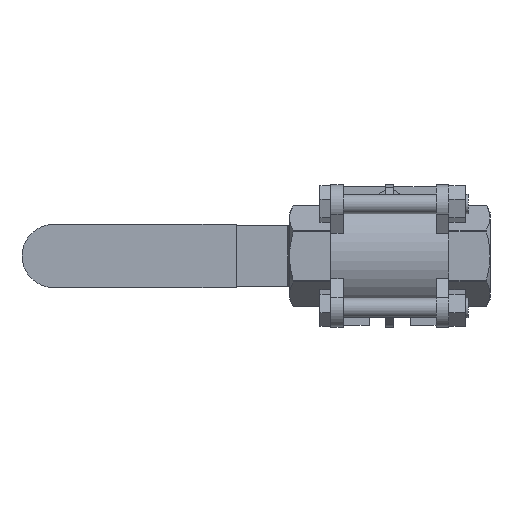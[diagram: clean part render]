
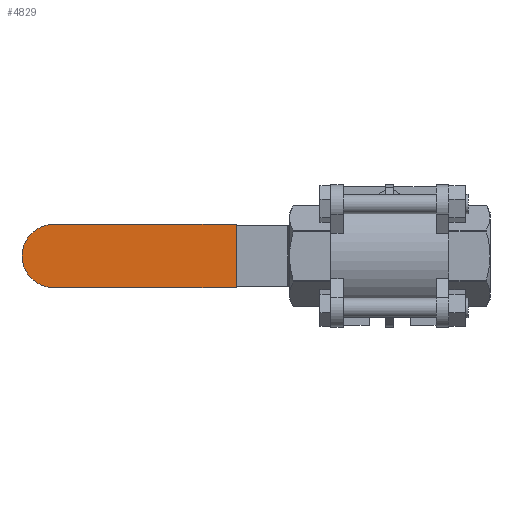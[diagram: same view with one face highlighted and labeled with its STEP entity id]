
A CAD part, front view. The second image highlights one B-rep face of the part: STEP entity #4829.
In plain terms, the highlighted planar face has unit normal (0, -1, 0).
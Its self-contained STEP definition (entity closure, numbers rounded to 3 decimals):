
#27 = DIRECTION ( 'NONE',  ( 0., 1., 0. ) ) ;
#60 = DIRECTION ( 'NONE',  ( 1., 0., 0. ) ) ;
#140 = ORIENTED_EDGE ( 'NONE', *, *, #2138, .T. ) ;
#171 = VERTEX_POINT ( 'NONE', #2990 ) ;
#260 = VECTOR ( 'NONE', #3237, 1000. ) ;
#436 = EDGE_CURVE ( 'NONE', #171, #1953, #7290, .T. ) ;
#549 = EDGE_CURVE ( 'NONE', #171, #646, #1215, .T. ) ;
#646 = VERTEX_POINT ( 'NONE', #2178 ) ;
#750 = EDGE_CURVE ( 'NONE', #3742, #646, #2925, .T. ) ;
#1215 = LINE ( 'NONE', #7503, #3240 ) ;
#1625 = DIRECTION ( 'NONE',  ( 0., 0., -1. ) ) ;
#1811 = CARTESIAN_POINT ( 'NONE',  ( -56., 66.5, 11.5 ) ) ;
#1953 = VERTEX_POINT ( 'NONE', #7090 ) ;
#1959 = EDGE_LOOP ( 'NONE', ( #140, #6554, #7248, #3775 ) ) ;
#2045 = LINE ( 'NONE', #6632, #260 ) ;
#2138 = EDGE_CURVE ( 'NONE', #3742, #1953, #2045, .T. ) ;
#2178 = CARTESIAN_POINT ( 'NONE',  ( -56., 66.5, -11.5 ) ) ;
#2925 = LINE ( 'NONE', #5009, #6344 ) ;
#2990 = CARTESIAN_POINT ( 'NONE',  ( -122.5, 66.5, -11.5 ) ) ;
#3237 = DIRECTION ( 'NONE',  ( -1., 0., 0. ) ) ;
#3240 = VECTOR ( 'NONE', #60, 1000. ) ;
#3610 = AXIS2_PLACEMENT_3D ( 'NONE', #3986, #8733, #4661 ) ;
#3742 = VERTEX_POINT ( 'NONE', #1811 ) ;
#3775 = ORIENTED_EDGE ( 'NONE', *, *, #750, .F. ) ;
#3986 = CARTESIAN_POINT ( 'NONE',  ( -122.5, 66.5, 0. ) ) ;
#4092 = PLANE ( 'NONE',  #6252 ) ;
#4661 = DIRECTION ( 'NONE',  ( -1., 0., 0. ) ) ;
#4773 = DIRECTION ( 'NONE',  ( -1., 0., 0. ) ) ;
#4829 = ADVANCED_FACE ( 'NONE', ( #6519 ), #4092, .F. ) ;
#5009 = CARTESIAN_POINT ( 'NONE',  ( -56., 66.5, 90.102 ) ) ;
#6252 = AXIS2_PLACEMENT_3D ( 'NONE', #8170, #27, #4773 ) ;
#6344 = VECTOR ( 'NONE', #1625, 1000. ) ;
#6519 = FACE_OUTER_BOUND ( 'NONE', #1959, .T. ) ;
#6554 = ORIENTED_EDGE ( 'NONE', *, *, #436, .F. ) ;
#6632 = CARTESIAN_POINT ( 'NONE',  ( -134., 66.5, 11.5 ) ) ;
#7090 = CARTESIAN_POINT ( 'NONE',  ( -122.5, 66.5, 11.5 ) ) ;
#7248 = ORIENTED_EDGE ( 'NONE', *, *, #549, .T. ) ;
#7290 = CIRCLE ( 'NONE', #3610, 11.5 ) ;
#7503 = CARTESIAN_POINT ( 'NONE',  ( -134., 66.5, -11.5 ) ) ;
#8170 = CARTESIAN_POINT ( 'NONE',  ( -134., 66.5, 90.102 ) ) ;
#8733 = DIRECTION ( 'NONE',  ( 0., 1., 0. ) ) ;
